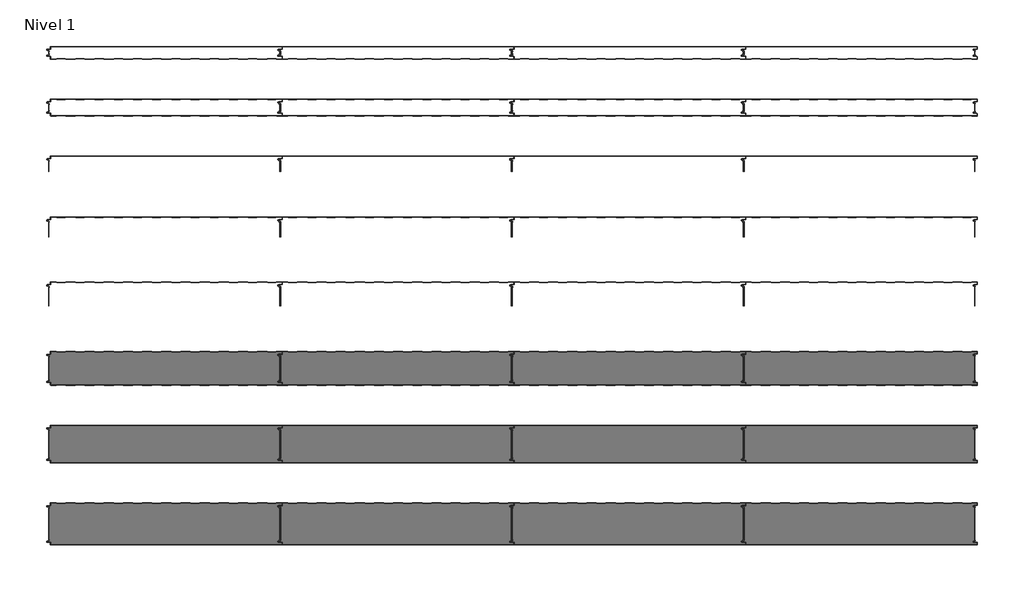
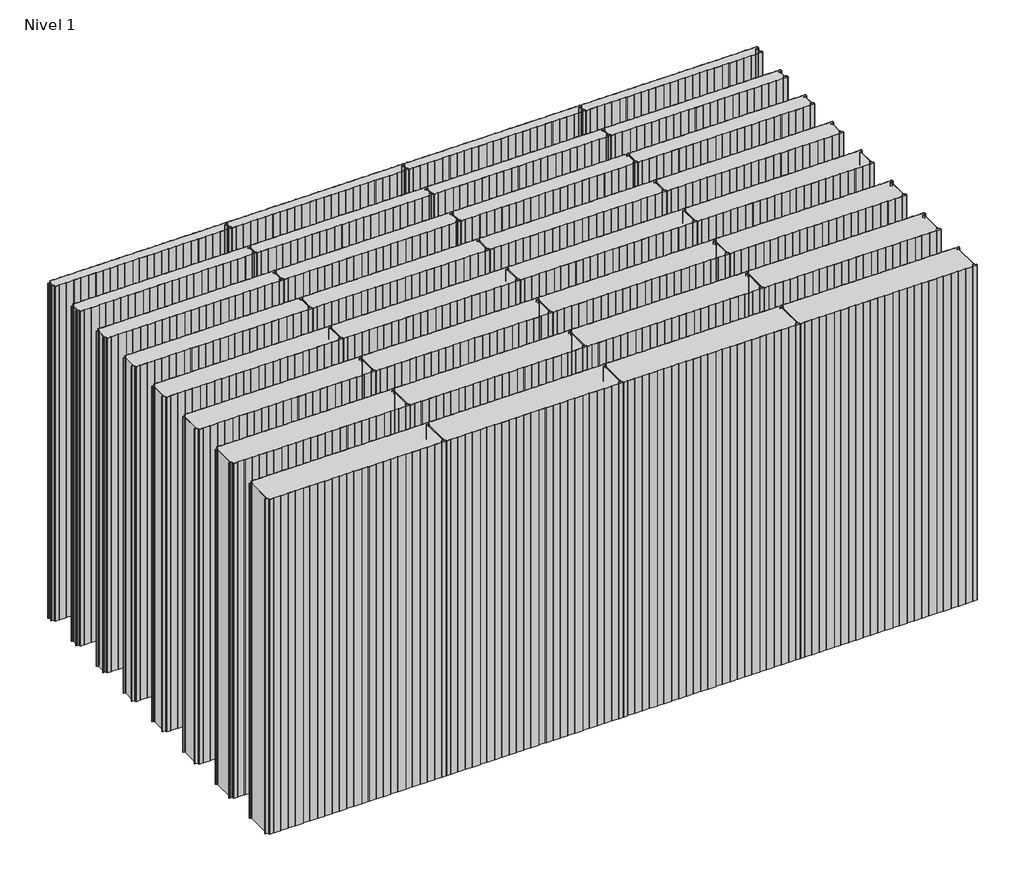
# One storey, incomplete: 32 plates.
"""IFC4 building model written with IfcOpenShell, lengths in millimetres."""

from ifc_helpers import new_model, si_unit, origin, place, context, project, spatial, transform, mapped, element, save
from components import plate_100_mm_e887709b, plate_120_mm_d4df899b, plate_140_mm_62e60727, plate_160_mm_f69a8524, plate_180_mm_14f23be3, plate_200_mm_aa99bd64, plate_60_mm_28918404, plate_80_mm_17309635

model = new_model("IFC4")

# Units and contexts
model_context = context("Model", 3, world=origin())
ifc_project = project(units=[si_unit("LENGTHUNIT", "METRE", prefix="MILLI")], contexts=[model_context])

# Site, building, storey
site = spatial("IfcSite", under=ifc_project)
building = spatial("IfcBuilding", under=site)
storey = spatial("IfcBuildingStorey", under=building, Name="Nivel 1", Elevation=0.0)

# Plates
placement = place(None, origin())
plate_100_mm_shape = plate_100_mm_e887709b(model_context)
element("IfcPlate", 1, ObjectType="HIANSA PANEL - H20.F03.001-PANEL FRIGORÍFICO - PANEL FRIGO - Panel de Muro Cortina : 100 mm", at=placement, inside=storey, context=model_context, shape_type="MappedRepresentation", body=[
    mapped(plate_100_mm_shape, transform((4818.1436702, 17116.5269271, 0.0), x_axis=(1.0, 0.0, 0.0), y_axis=(0.0, 1.0, 0.0), z_axis=(0.0, 0.0, 1.0))),
])
element("IfcPlate", 2, ObjectType="HIANSA PANEL - H20.F03.001-PANEL FRIGORÍFICO - PANEL FRIGO - Panel de Muro Cortina : 100 mm", at=placement, inside=storey, context=model_context, shape_type="MappedRepresentation", body=[
    mapped(plate_100_mm_shape, transform((5918.1436703, 17116.5269271, 0.0), x_axis=(1.0, 0.0, 0.0), y_axis=(0.0, 1.0, 0.0), z_axis=(0.0, 0.0, 1.0))),
])
element("IfcPlate", 3, ObjectType="HIANSA PANEL - H20.F03.001-PANEL FRIGORÍFICO - PANEL FRIGO - Panel de Muro Cortina : 100 mm", at=placement, inside=storey, context=model_context, shape_type="MappedRepresentation", body=[
    mapped(plate_100_mm_shape, transform((7018.1436703, 17116.5269271, 0.0), x_axis=(1.0, 0.0, 0.0), y_axis=(0.0, 1.0, 0.0), z_axis=(0.0, 0.0, 1.0))),
])
element("IfcPlate", 4, ObjectType="HIANSA PANEL - H20.F03.001-PANEL FRIGORÍFICO - PANEL FRIGO - Panel de Muro Cortina : 100 mm", at=placement, inside=storey, context=model_context, shape_type="MappedRepresentation", body=[
    mapped(plate_100_mm_shape, transform((8118.1436702, 17116.5269271, 0.0), x_axis=(1.0, 0.0, 0.0), y_axis=(0.0, 1.0, 0.0), z_axis=(0.0, 0.0, 1.0))),
])
plate_120_mm_shape = plate_120_mm_d4df899b(model_context)
element("IfcPlate", 5, ObjectType="HIANSA PANEL - H20.F03.001-PANEL FRIGORÍFICO - PANEL FRIGO - Panel de Muro Cortina : 120 mm", at=placement, inside=storey, context=model_context, shape_type="MappedRepresentation", body=[
    mapped(plate_120_mm_shape, transform((4818.1436702, 16826.5269271, 0.0), x_axis=(1.0, 0.0, 0.0), y_axis=(0.0, 1.0, 0.0), z_axis=(0.0, 0.0, 1.0))),
])
element("IfcPlate", 6, ObjectType="HIANSA PANEL - H20.F03.001-PANEL FRIGORÍFICO - PANEL FRIGO - Panel de Muro Cortina : 120 mm", at=placement, inside=storey, context=model_context, shape_type="MappedRepresentation", body=[
    mapped(plate_120_mm_shape, transform((5918.1436703, 16826.5269271, 0.0), x_axis=(1.0, 0.0, 0.0), y_axis=(0.0, 1.0, 0.0), z_axis=(0.0, 0.0, 1.0))),
])
element("IfcPlate", 7, ObjectType="HIANSA PANEL - H20.F03.001-PANEL FRIGORÍFICO - PANEL FRIGO - Panel de Muro Cortina : 120 mm", at=placement, inside=storey, context=model_context, shape_type="MappedRepresentation", body=[
    mapped(plate_120_mm_shape, transform((7018.1436703, 16826.5269271, 0.0), x_axis=(1.0, 0.0, 0.0), y_axis=(0.0, 1.0, 0.0), z_axis=(0.0, 0.0, 1.0))),
])
element("IfcPlate", 8, ObjectType="HIANSA PANEL - H20.F03.001-PANEL FRIGORÍFICO - PANEL FRIGO - Panel de Muro Cortina : 120 mm", at=placement, inside=storey, context=model_context, shape_type="MappedRepresentation", body=[
    mapped(plate_120_mm_shape, transform((8118.1436702, 16826.5269271, 0.0), x_axis=(1.0, 0.0, 0.0), y_axis=(0.0, 1.0, 0.0), z_axis=(0.0, 0.0, 1.0))),
])
plate_140_mm_shape = plate_140_mm_62e60727(model_context)
element("IfcPlate", 9, ObjectType="HIANSA PANEL - H20.F03.001-PANEL FRIGORÍFICO - PANEL FRIGO - Panel de Muro Cortina : 140 mm", at=placement, inside=storey, context=model_context, shape_type="MappedRepresentation", body=[
    mapped(plate_140_mm_shape, transform((4818.1436702, 16517.5269271, 0.0), x_axis=(1.0, 0.0, 0.0), y_axis=(0.0, 1.0, 0.0), z_axis=(0.0, 0.0, 1.0))),
])
element("IfcPlate", 10, ObjectType="HIANSA PANEL - H20.F03.001-PANEL FRIGORÍFICO - PANEL FRIGO - Panel de Muro Cortina : 140 mm", at=placement, inside=storey, context=model_context, shape_type="MappedRepresentation", body=[
    mapped(plate_140_mm_shape, transform((5918.1436703, 16517.5269271, 0.0), x_axis=(1.0, 0.0, 0.0), y_axis=(0.0, 1.0, 0.0), z_axis=(0.0, 0.0, 1.0))),
])
element("IfcPlate", 11, ObjectType="HIANSA PANEL - H20.F03.001-PANEL FRIGORÍFICO - PANEL FRIGO - Panel de Muro Cortina : 140 mm", at=placement, inside=storey, context=model_context, shape_type="MappedRepresentation", body=[
    mapped(plate_140_mm_shape, transform((7018.1436703, 16517.5269271, 0.0), x_axis=(1.0, 0.0, 0.0), y_axis=(0.0, 1.0, 0.0), z_axis=(0.0, 0.0, 1.0))),
])
element("IfcPlate", 12, ObjectType="HIANSA PANEL - H20.F03.001-PANEL FRIGORÍFICO - PANEL FRIGO - Panel de Muro Cortina : 140 mm", at=placement, inside=storey, context=model_context, shape_type="MappedRepresentation", body=[
    mapped(plate_140_mm_shape, transform((8118.1436702, 16517.5269271, 0.0), x_axis=(1.0, 0.0, 0.0), y_axis=(0.0, 1.0, 0.0), z_axis=(0.0, 0.0, 1.0))),
])
plate_160_mm_shape = plate_160_mm_f69a8524(model_context)
element("IfcPlate", 13, ObjectType="HIANSA PANEL - H20.F03.001-PANEL FRIGORÍFICO - PANEL FRIGO - Panel de Muro Cortina : 160 mm", at=placement, inside=storey, context=model_context, shape_type="MappedRepresentation", body=[
    mapped(plate_160_mm_shape, transform((4818.1436702, 16187.5269271, 0.0), x_axis=(1.0, 0.0, 0.0), y_axis=(0.0, 1.0, 0.0), z_axis=(0.0, 0.0, 1.0))),
])
element("IfcPlate", 14, ObjectType="HIANSA PANEL - H20.F03.001-PANEL FRIGORÍFICO - PANEL FRIGO - Panel de Muro Cortina : 160 mm", at=placement, inside=storey, context=model_context, shape_type="MappedRepresentation", body=[
    mapped(plate_160_mm_shape, transform((5918.1436703, 16187.5269271, 0.0), x_axis=(1.0, 0.0, 0.0), y_axis=(0.0, 1.0, 0.0), z_axis=(0.0, 0.0, 1.0))),
])
element("IfcPlate", 15, ObjectType="HIANSA PANEL - H20.F03.001-PANEL FRIGORÍFICO - PANEL FRIGO - Panel de Muro Cortina : 160 mm", at=placement, inside=storey, context=model_context, shape_type="MappedRepresentation", body=[
    mapped(plate_160_mm_shape, transform((7018.1436703, 16187.5269271, 0.0), x_axis=(1.0, 0.0, 0.0), y_axis=(0.0, 1.0, 0.0), z_axis=(0.0, 0.0, 1.0))),
])
element("IfcPlate", 16, ObjectType="HIANSA PANEL - H20.F03.001-PANEL FRIGORÍFICO - PANEL FRIGO - Panel de Muro Cortina : 160 mm", at=placement, inside=storey, context=model_context, shape_type="MappedRepresentation", body=[
    mapped(plate_160_mm_shape, transform((8118.1436702, 16187.5269271, 0.0), x_axis=(1.0, 0.0, 0.0), y_axis=(0.0, 1.0, 0.0), z_axis=(0.0, 0.0, 1.0))),
])
plate_180_mm_shape = plate_180_mm_14f23be3(model_context)
element("IfcPlate", 17, ObjectType="HIANSA PANEL - H20.F03.001-PANEL FRIGORÍFICO - PANEL FRIGO - Panel de Muro Cortina : 180 mm", at=placement, inside=storey, context=model_context, shape_type="MappedRepresentation", body=[
    mapped(plate_180_mm_shape, transform((4818.1436702, 15837.5269271, 0.0), x_axis=(1.0, 0.0, 0.0), y_axis=(0.0, 1.0, 0.0), z_axis=(0.0, 0.0, 1.0))),
])
element("IfcPlate", 18, ObjectType="HIANSA PANEL - H20.F03.001-PANEL FRIGORÍFICO - PANEL FRIGO - Panel de Muro Cortina : 180 mm", at=placement, inside=storey, context=model_context, shape_type="MappedRepresentation", body=[
    mapped(plate_180_mm_shape, transform((5918.1436703, 15837.5269271, 0.0), x_axis=(1.0, 0.0, 0.0), y_axis=(0.0, 1.0, 0.0), z_axis=(0.0, 0.0, 1.0))),
])
element("IfcPlate", 19, ObjectType="HIANSA PANEL - H20.F03.001-PANEL FRIGORÍFICO - PANEL FRIGO - Panel de Muro Cortina : 180 mm", at=placement, inside=storey, context=model_context, shape_type="MappedRepresentation", body=[
    mapped(plate_180_mm_shape, transform((7018.1436703, 15837.5269271, 0.0), x_axis=(1.0, 0.0, 0.0), y_axis=(0.0, 1.0, 0.0), z_axis=(0.0, 0.0, 1.0))),
])
element("IfcPlate", 20, ObjectType="HIANSA PANEL - H20.F03.001-PANEL FRIGORÍFICO - PANEL FRIGO - Panel de Muro Cortina : 180 mm", at=placement, inside=storey, context=model_context, shape_type="MappedRepresentation", body=[
    mapped(plate_180_mm_shape, transform((8118.1436702, 15837.5269271, 0.0), x_axis=(1.0, 0.0, 0.0), y_axis=(0.0, 1.0, 0.0), z_axis=(0.0, 0.0, 1.0))),
])
plate_200_mm_shape = plate_200_mm_aa99bd64(model_context)
element("IfcPlate", 21, ObjectType="HIANSA PANEL - H20.F03.001-PANEL FRIGORÍFICO - PANEL FRIGO - Panel de Muro Cortina : 200 mm", at=placement, inside=storey, context=model_context, shape_type="MappedRepresentation", body=[
    mapped(plate_200_mm_shape, transform((4818.1436702, 15468.5269271, 0.0), x_axis=(1.0, 0.0, 0.0), y_axis=(0.0, 1.0, 0.0), z_axis=(0.0, 0.0, 1.0))),
])
element("IfcPlate", 22, ObjectType="HIANSA PANEL - H20.F03.001-PANEL FRIGORÍFICO - PANEL FRIGO - Panel de Muro Cortina : 200 mm", at=placement, inside=storey, context=model_context, shape_type="MappedRepresentation", body=[
    mapped(plate_200_mm_shape, transform((5918.1436703, 15468.5269271, 0.0), x_axis=(1.0, 0.0, 0.0), y_axis=(0.0, 1.0, 0.0), z_axis=(0.0, 0.0, 1.0))),
])
element("IfcPlate", 23, ObjectType="HIANSA PANEL - H20.F03.001-PANEL FRIGORÍFICO - PANEL FRIGO - Panel de Muro Cortina : 200 mm", at=placement, inside=storey, context=model_context, shape_type="MappedRepresentation", body=[
    mapped(plate_200_mm_shape, transform((7018.1436703, 15468.5269271, 0.0), x_axis=(1.0, 0.0, 0.0), y_axis=(0.0, 1.0, 0.0), z_axis=(0.0, 0.0, 1.0))),
])
element("IfcPlate", 24, ObjectType="HIANSA PANEL - H20.F03.001-PANEL FRIGORÍFICO - PANEL FRIGO - Panel de Muro Cortina : 200 mm", at=placement, inside=storey, context=model_context, shape_type="MappedRepresentation", body=[
    mapped(plate_200_mm_shape, transform((8118.1436702, 15468.5269271, 0.0), x_axis=(1.0, 0.0, 0.0), y_axis=(0.0, 1.0, 0.0), z_axis=(0.0, 0.0, 1.0))),
])
plate_60_mm_shape = plate_60_mm_28918404(model_context)
element("IfcPlate", 25, ObjectType="HIANSA PANEL - H20.F03.001-PANEL FRIGORÍFICO - PANEL FRIGO - Panel de Muro Cortina : 60 mm", at=placement, inside=storey, context=model_context, shape_type="MappedRepresentation", body=[
    mapped(plate_60_mm_shape, transform((4818.1436702, 17636.5269276, 0.0), x_axis=(1.0, 0.0, 0.0), y_axis=(0.0, 1.0, 0.0), z_axis=(0.0, 0.0, 1.0))),
])
element("IfcPlate", 26, ObjectType="HIANSA PANEL - H20.F03.001-PANEL FRIGORÍFICO - PANEL FRIGO - Panel de Muro Cortina : 60 mm", at=placement, inside=storey, context=model_context, shape_type="MappedRepresentation", body=[
    mapped(plate_60_mm_shape, transform((5918.1436703, 17636.5269276, 0.0), x_axis=(1.0, 0.0, 0.0), y_axis=(0.0, 1.0, 0.0), z_axis=(0.0, 0.0, 1.0))),
])
element("IfcPlate", 27, ObjectType="HIANSA PANEL - H20.F03.001-PANEL FRIGORÍFICO - PANEL FRIGO - Panel de Muro Cortina : 60 mm", at=placement, inside=storey, context=model_context, shape_type="MappedRepresentation", body=[
    mapped(plate_60_mm_shape, transform((7018.1436703, 17636.5269276, 0.0), x_axis=(1.0, 0.0, 0.0), y_axis=(0.0, 1.0, 0.0), z_axis=(0.0, 0.0, 1.0))),
])
element("IfcPlate", 28, ObjectType="HIANSA PANEL - H20.F03.001-PANEL FRIGORÍFICO - PANEL FRIGO - Panel de Muro Cortina : 60 mm", at=placement, inside=storey, context=model_context, shape_type="MappedRepresentation", body=[
    mapped(plate_60_mm_shape, transform((8118.1436702, 17636.5269276, 0.0), x_axis=(1.0, 0.0, 0.0), y_axis=(0.0, 1.0, 0.0), z_axis=(0.0, 0.0, 1.0))),
])
plate_80_mm_shape = plate_80_mm_17309635(model_context)
element("IfcPlate", 29, ObjectType="HIANSA PANEL - H20.F03.001-PANEL FRIGORÍFICO - PANEL FRIGO - Panel de Muro Cortina : 80 mm", at=placement, inside=storey, context=model_context, shape_type="MappedRepresentation", body=[
    mapped(plate_80_mm_shape, transform((4818.1436702, 17386.5269276, 0.0), x_axis=(1.0, 0.0, 0.0), y_axis=(0.0, 1.0, 0.0), z_axis=(0.0, 0.0, 1.0))),
])
element("IfcPlate", 30, ObjectType="HIANSA PANEL - H20.F03.001-PANEL FRIGORÍFICO - PANEL FRIGO - Panel de Muro Cortina : 80 mm", at=placement, inside=storey, context=model_context, shape_type="MappedRepresentation", body=[
    mapped(plate_80_mm_shape, transform((5918.1436703, 17386.5269276, 0.0), x_axis=(1.0, 0.0, 0.0), y_axis=(0.0, 1.0, 0.0), z_axis=(0.0, 0.0, 1.0))),
])
element("IfcPlate", 31, ObjectType="HIANSA PANEL - H20.F03.001-PANEL FRIGORÍFICO - PANEL FRIGO - Panel de Muro Cortina : 80 mm", at=placement, inside=storey, context=model_context, shape_type="MappedRepresentation", body=[
    mapped(plate_80_mm_shape, transform((7018.1436703, 17386.5269276, 0.0), x_axis=(1.0, 0.0, 0.0), y_axis=(0.0, 1.0, 0.0), z_axis=(0.0, 0.0, 1.0))),
])
element("IfcPlate", 32, ObjectType="HIANSA PANEL - H20.F03.001-PANEL FRIGORÍFICO - PANEL FRIGO - Panel de Muro Cortina : 80 mm", at=placement, inside=storey, context=model_context, shape_type="MappedRepresentation", body=[
    mapped(plate_80_mm_shape, transform((8118.1436702, 17386.5269276, 0.0), x_axis=(1.0, 0.0, 0.0), y_axis=(0.0, 1.0, 0.0), z_axis=(0.0, 0.0, 1.0))),
])

save(model, "model.ifc")
